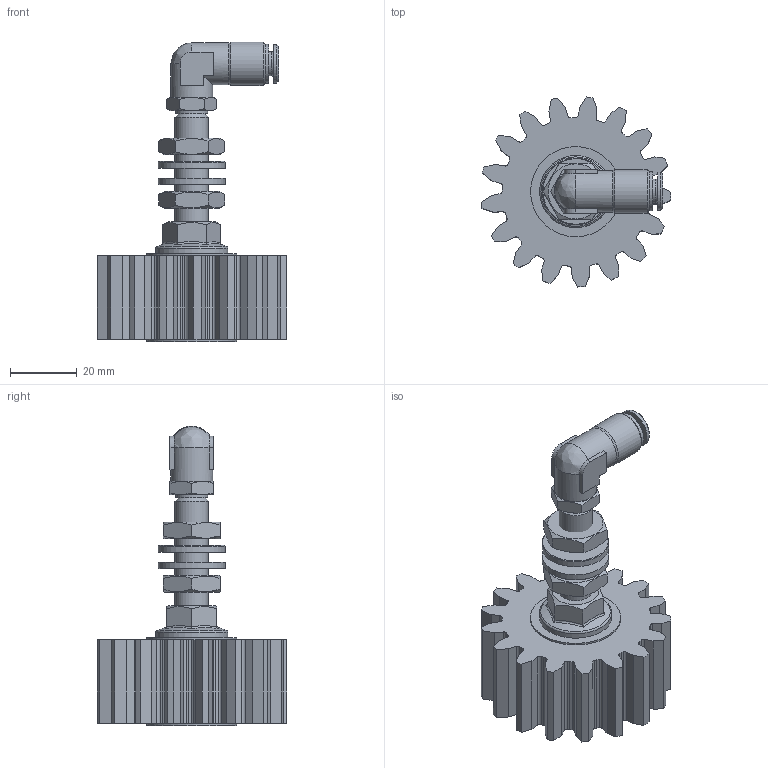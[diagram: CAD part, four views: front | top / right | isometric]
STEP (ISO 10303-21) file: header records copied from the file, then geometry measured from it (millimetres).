
FILE_DESCRIPTION (( 'STEP AP214' ), '1' );
FILE_NAME ('012_13_03_25_17AZ.STEP', '2026-04-01T13:38:29', ( '' ), ( '' ), 'SwSTEP 2.0', 'SolidWorks 2022', '' );
FILE_SCHEMA (( 'AUTOMOTIVE_DESIGN' ));
Length unit declared in the file: millimetre
Products named in the file (13): 012_06_Senkschraube; H214667-HDS_1-8_M6X1Z; 012_13_03_25_17AZ; Mutter_M10; Achse_M10_1_Schmierzahnrad; 12012_06_01_Scheibe-CRS-VA_27.SLDASM; U_Scheibe_10.5; DR6-C_HDX_25.07.16; Schmierzahnrad_03_25_17G; OR 7.2X1.9; H202225_HDS_022_6_M6_28.09.22; R11155-N2
Assembly tree (14 placements, depth 4):
  012_13_03_25_17AZ
    Achse_M10_1_Schmierzahnrad
    012_06_Senkschraube
    12012_06_01_Scheibe-CRS-VA_27.SLDASM
    Mutter_M10  x2
    U_Scheibe_10.5  x2
    H202225_HDS_022_6_M6_28.09.22
      R11155-N2
      DR6-C_HDX_25.07.16
      H214667-HDS_1-8_M6X1Z
        H214667-HDS_1-8_M6X1Z
        OR 7.2X1.9
    Schmierzahnrad_03_25_17G
Bounding box: 56.82 x 56.82 x 89.7 mm (x, y, z)
Volume: 62145.5 mm3; surface area: 23731.2 mm2
Topology: 12 solids, 12 shells, 671 faces, 1800 edges, 1190 vertices
Faces by surface type: plane 431, bspline 95, cylinder 91, cone 50, torus 4
Full cylindrical faces by diameter (mm): 2 x1, 4 x1, 4.6 x1, 5 x1, 5.5 x1, 6 x2, 6.2 x1, 6.3 x1, 7.2 x1, 8.5 x2, 9 x2, 9.5 x1, 9.9 x1, 10 x2, 10.1 x2, 10.3 x1, 10.5 x2, 11.5 x1, 11.7 x1, 12.5 x2, 13 x1, 20 x2, 21.6 x1, 27 x2
Entity records: 28393 total; most frequent: CARTESIAN_POINT 11502, ORIENTED_EDGE 3290, DIRECTION 2741, EDGE_CURVE 1645, LINE 1143, VECTOR 1143, VERTEX_POINT 1122, AXIS2_PLACEMENT_3D 799
